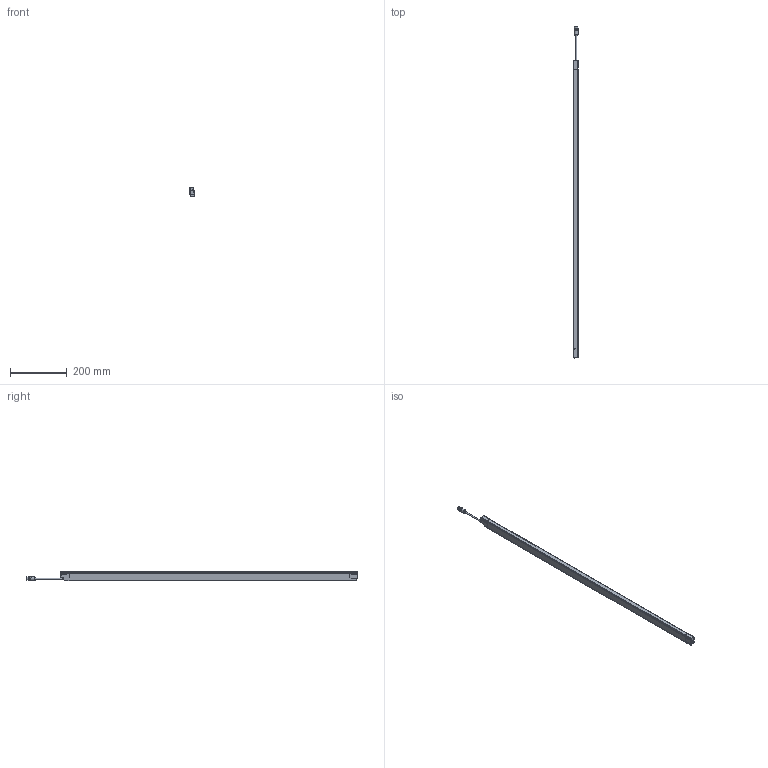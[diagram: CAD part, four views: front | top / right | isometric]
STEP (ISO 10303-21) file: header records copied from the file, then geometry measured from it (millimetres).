
FILE_DESCRIPTION(/* description */ (''),/* implementation_level */ '2;1');
FILE_NAME(/* name */ 'DSD-0650.stp',/* time_stamp */ '2015-02-23T17:50:34+01:00',/* author */ (''),/* organization */ (''),/* preprocessor_version */ 'ST-DEVELOPER v11',/* originating_system */ 'SIEMENS PLM Software NX 7.5',/* authorisation */ '');
FILE_SCHEMA (('AUTOMOTIVE_DESIGN { 1 0 10303 214 1 1 1 1 }'));
Length unit declared in the file: millimetre
Products named in the file (1): AP008172_00
Bounding box: 17.36 x 1170.24 x 33.46 mm (x, y, z)
Surface area: 125447.8 mm2 (no closed solid volume)
Topology: 0 solids, 46 shells, 1044 faces, 3479 edges, 2353 vertices
Faces by surface type: cylinder 388, plane 308, bspline 147, torus 108, sphere 64, cone 29
Full cylindrical faces by diameter (mm): 1 x5, 1.2 x2, 2.6 x6, 4 x1, 8.3 x1, 9.4 x1, 10.4 x1, 12 x1, 13 x1, 13.5 x1, 14.5 x2
Entity records: 43486 total; most frequent: CARTESIAN_POINT 13947, DIRECTION 6351, ORIENTED_EDGE 5444, EDGE_CURVE 3366, AXIS2_PLACEMENT_3D 2413, VERTEX_POINT 2325, LINE 1525, VECTOR 1525
